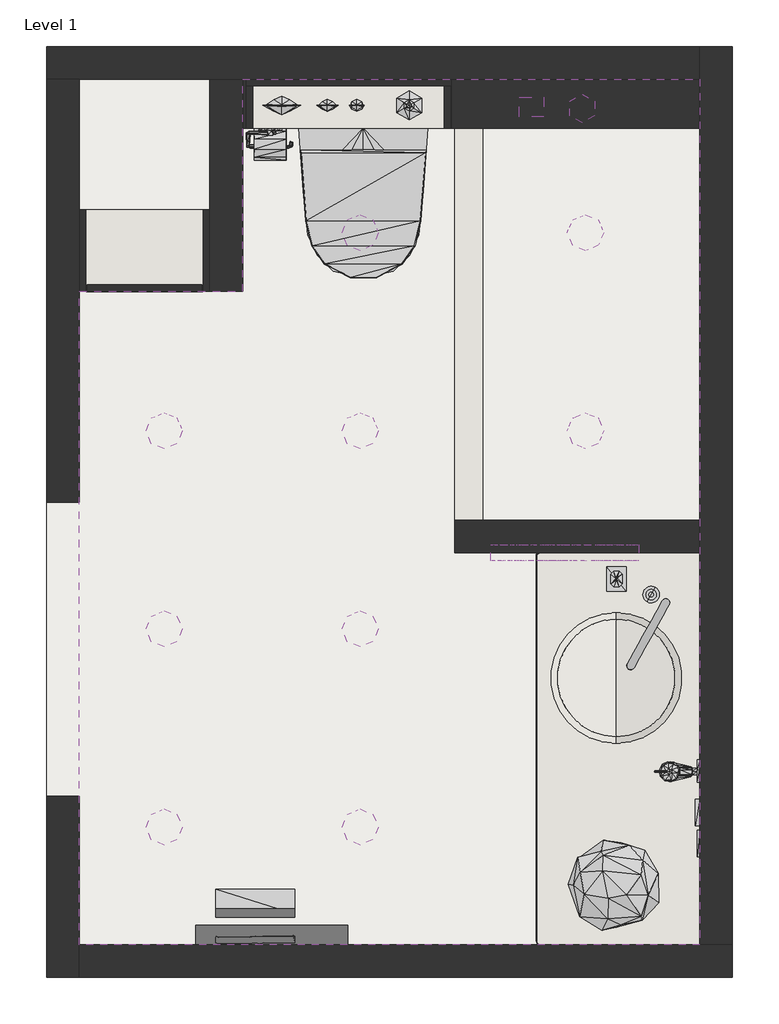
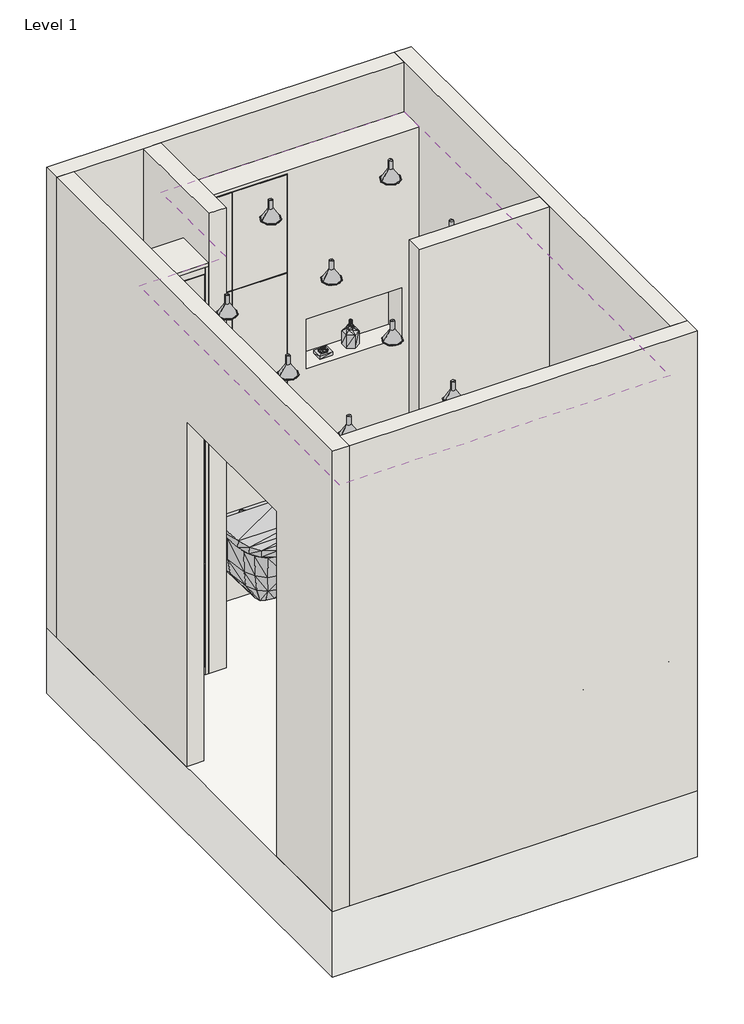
# One storey, incomplete: 17 geographic elements, 9 light fixtures, 7 walls, 1 covering, 1 flow terminal, 1 proxy, 1 slab.
"""IFC4 building model written with IfcOpenShell, lengths in millimetres."""

from ifc_helpers import new_model, si_unit, point, frame, frame_2d, origin, origin_with_axes, place, context, project, spatial, polyline, circle_curve, trimmed, segment, composite_curve, outline, extrude, faceted_brep, transform, mapped, element, save
from components import generic_models_c4c21ff8, tap_2_tap_2_4da6b067, enscape_assetdefinition_bath_towel_enscape_assetdefinition_b76da393, enscape_assetdefinition_creme_tube_02_enscape_099a7565, enscape_assetdefinition_creme_tube_03_enscape_79aa0b1a, enscape_assetdefinition_creme_tube_enscape_assetdefinition_85d8d02e, enscape_assetdefinition_folded_towel_enscape_assetdefinition_80e501e3, enscape_assetdefinition_hanging_toilet_1_enscape_ed570b02, enscape_assetdefinition_heater_06_enscape_assetdefinition_1c5556bd, enscape_assetdefinition_interior_plant_84_enscape_4a8b0236, enscape_assetdefinition_light_switch_02_enscape_37d4c2cf, enscape_assetdefinition_power_socket_enscape_assetdefinition_57b8c8f3, enscape_assetdefinition_soap_dispenser_05_enscape_c9e8c837, enscape_assetdefinition_soap_dispenser_enscape_4bf6a539, enscape_assetdefinition_soap_tray_enscape_assetdefinition_739b70c8, enscape_assetdefinition_toilet_paper_enscape_assetdefinition_5974bb4b, enscape_assetdefinition_towel_basket_enscape_assetdefinition_32777967, light_fixture_bf0697d5, walls_1_walls_1_4596b75a

model = new_model("IFC4")

# Units and contexts
model_context = context("Model", 3, world=origin())
ifc_project = project(units=[si_unit("LENGTHUNIT", "METRE", prefix="MILLI")], contexts=[model_context])

# Site, building, storey
site = spatial("IfcSite", under=ifc_project)
building = spatial("IfcBuilding", under=site)
storey = spatial("IfcBuildingStorey", under=building, Name="Level 1", Elevation=0.0)

# Proxy
placement = place(None, origin())
generic_models_shape = generic_models_c4c21ff8(model_context)
element("IfcBuildingElementProxy", 1, Name="ArcPro Statue : ArcPro Statue", ObjectType="ArcPro Statue : ArcPro Statue", at=placement, inside=storey, context=model_context, shape_type="MappedRepresentation", body=[
    mapped(generic_models_shape, transform((-867.6715386, 410.0517789, 1517.8195842), x_axis=(1.0, 0.0, 0.0), y_axis=(0.0, 1.0, 0.0), z_axis=(0.0, 0.0, 1.0))),
])

# Covering
element("IfcCovering", 2, ObjectType="600 x 1200mm Grid", at=placement, inside=storey, context=model_context, shape_type="SweptSolid", body=[
    extrude(outline(polyline([(-2287.6715386, -789.9482211), (-2287.6715386, 1210.0517789), (-1787.6715386, 1210.0517789), (-1787.6715386, 1860.0517789), (-387.6715386, 1860.0517789), (-387.6715386, -789.9482211), (-2287.6715386, -789.9482211)]), holes=[composite_curve([segment(trimmed(circle_curve(frame_2d((-1427.6715386, -429.9482211)), 55.3683433), [point((-1483.0398818, -429.9482211))], [point((-1372.3031953, -429.9482211))], True, "CARTESIAN"), True, "CONTINUOUS"), segment(trimmed(circle_curve(frame_2d((-1427.6715386, -429.9482211)), 55.3683433), [point((-1372.3031953, -429.9482211))], [point((-1483.0398818, -429.9482211))], True, "CARTESIAN"), True, "CONTINUOUS")], self_intersect=False), composite_curve([segment(trimmed(circle_curve(frame_2d((-1427.6715386, 176.7184455)), 55.3683433), [point((-1483.0398818, 176.7184455))], [point((-1372.3031953, 176.7184455))], True, "CARTESIAN"), True, "CONTINUOUS"), segment(trimmed(circle_curve(frame_2d((-1427.6715386, 176.7184455)), 55.3683433), [point((-1372.3031953, 176.7184455))], [point((-1483.0398818, 176.7184455))], True, "CARTESIAN"), True, "CONTINUOUS")], self_intersect=False), composite_curve([segment(trimmed(circle_curve(frame_2d((-1427.6715386, 783.3851122)), 55.3683433), [point((-1483.0398818, 783.3851122))], [point((-1372.3031953, 783.3851122))], True, "CARTESIAN"), True, "CONTINUOUS"), segment(trimmed(circle_curve(frame_2d((-1427.6715386, 783.3851122)), 55.3683433), [point((-1372.3031953, 783.3851122))], [point((-1483.0398818, 783.3851122))], True, "CARTESIAN"), True, "CONTINUOUS")], self_intersect=False), composite_curve([segment(trimmed(circle_curve(frame_2d((-1427.6715386, 1390.0517789)), 55.3683433), [point((-1483.0398818, 1390.0517789))], [point((-1372.3031953, 1390.0517789))], True, "CARTESIAN"), True, "CONTINUOUS"), segment(trimmed(circle_curve(frame_2d((-1427.6715386, 1390.0517789)), 55.3683433), [point((-1372.3031953, 1390.0517789))], [point((-1483.0398818, 1390.0517789))], True, "CARTESIAN"), True, "CONTINUOUS")], self_intersect=False), composite_curve([segment(trimmed(circle_curve(frame_2d((-2027.6715386, -429.9482211)), 55.3683433), [point((-2083.0398818, -429.9482211))], [point((-1972.3031953, -429.9482211))], True, "CARTESIAN"), True, "CONTINUOUS"), segment(trimmed(circle_curve(frame_2d((-2027.6715386, -429.9482211)), 55.3683433), [point((-1972.3031953, -429.9482211))], [point((-2083.0398818, -429.9482211))], True, "CARTESIAN"), True, "CONTINUOUS")], self_intersect=False), composite_curve([segment(trimmed(circle_curve(frame_2d((-2027.6715386, 176.7184455)), 55.3683433), [point((-2083.0398818, 176.7184455))], [point((-1972.3031953, 176.7184455))], True, "CARTESIAN"), True, "CONTINUOUS"), segment(trimmed(circle_curve(frame_2d((-2027.6715386, 176.7184455)), 55.3683433), [point((-1972.3031953, 176.7184455))], [point((-2083.0398818, 176.7184455))], True, "CARTESIAN"), True, "CONTINUOUS")], self_intersect=False), composite_curve([segment(trimmed(circle_curve(frame_2d((-2027.6715386, 783.3851122)), 55.3683433), [point((-2083.0398818, 783.3851122))], [point((-1972.3031953, 783.3851122))], True, "CARTESIAN"), True, "CONTINUOUS"), segment(trimmed(circle_curve(frame_2d((-2027.6715386, 783.3851122)), 55.3683433), [point((-1972.3031953, 783.3851122))], [point((-2083.0398818, 783.3851122))], True, "CARTESIAN"), True, "CONTINUOUS")], self_intersect=False), composite_curve([segment(trimmed(circle_curve(frame_2d((-737.6715386, 783.3851122)), 55.3683433), [point((-793.0398818, 783.3851122))], [point((-682.3031953, 783.3851122))], True, "CARTESIAN"), True, "CONTINUOUS"), segment(trimmed(circle_curve(frame_2d((-737.6715386, 783.3851122)), 55.3683433), [point((-682.3031953, 783.3851122))], [point((-793.0398818, 783.3851122))], True, "CARTESIAN"), True, "CONTINUOUS")], self_intersect=False), composite_curve([segment(trimmed(circle_curve(frame_2d((-737.6715386, 1390.0517789)), 55.3683433), [point((-793.0398818, 1390.0517789))], [point((-682.3031953, 1390.0517789))], True, "CARTESIAN"), True, "CONTINUOUS"), segment(trimmed(circle_curve(frame_2d((-737.6715386, 1390.0517789)), 55.3683433), [point((-682.3031953, 1390.0517789))], [point((-793.0398818, 1390.0517789))], True, "CARTESIAN"), True, "CONTINUOUS")], self_intersect=False)]), frame((0.0, 0.0, 2500.0), z_axis=(0.0, 0.0, 1.0), x_axis=(1.0, 0.0, 0.0)), (0.0, 0.0, 1.0), 52.0),
])

# Flow terminal
tap_2_tap_2_shape = tap_2_tap_2_4da6b067(model_context)
element("IfcFlowTerminal", 3, ObjectType="Tap (2) : Tap (2)", at=placement, inside=storey, context=model_context, shape_type="MappedRepresentation", body=[
    mapped(tap_2_tap_2_shape, transform((-491.6786571, 257.5598191, 800.0), x_axis=(0.8746197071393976, -0.4848096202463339, 0.0), y_axis=(0.4848096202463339, 0.8746197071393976, 0.0), z_axis=(0.0, 0.0, 1.0))),
])

# Geographic elements
enscape_assetdefinition_bath_towel_enscape_assetdefinition_shape = enscape_assetdefinition_bath_towel_enscape_assetdefinition_b76da393(model_context)
element("IfcGeographicElement", 4, ObjectType="Enscape AssetDefinition - Bath Towel : Enscape AssetDefinition - Bath Towel", at=placement, inside=storey, context=model_context, shape_type="MappedRepresentation", body=[
    mapped(enscape_assetdefinition_bath_towel_enscape_assetdefinition_shape, transform((-1647.6715386, -738.7482211, 1264.9), x_axis=(1.0, 0.0, 0.0), y_axis=(0.0, 1.0, 0.0), z_axis=(0.0, 0.0, 1.0))),
])
enscape_assetdefinition_creme_tube_02_enscape_shape = enscape_assetdefinition_creme_tube_02_enscape_099a7565(model_context)
element("IfcGeographicElement", 5, ObjectType="Enscape AssetDefinition - Creme Tube 02 : Enscape AssetDefinition - Creme Tube 02", at=placement, inside=storey, context=model_context, shape_type="MappedRepresentation", body=[
    mapped(enscape_assetdefinition_creme_tube_02_enscape_shape, transform((-1527.6715386, 1780.0517789, 974.3381512), x_axis=(1.0, 0.0, 0.0), y_axis=(0.0, 1.0, 0.0), z_axis=(0.0, 0.0, 1.0))),
])
enscape_assetdefinition_creme_tube_03_enscape_shape = enscape_assetdefinition_creme_tube_03_enscape_79aa0b1a(model_context)
element("IfcGeographicElement", 6, ObjectType="Enscape AssetDefinition - Creme Tube 03 : Enscape AssetDefinition - Creme Tube 03", at=placement, inside=storey, context=model_context, shape_type="MappedRepresentation", body=[
    mapped(enscape_assetdefinition_creme_tube_03_enscape_shape, transform((-1667.6715386, 1780.0517789, 974.3), x_axis=(1.0, 0.0, 0.0), y_axis=(0.0, 1.0, 0.0), z_axis=(0.0, 0.0, 1.0))),
])
enscape_assetdefinition_creme_tube_enscape_assetdefinition_shape = enscape_assetdefinition_creme_tube_enscape_assetdefinition_85d8d02e(model_context)
element("IfcGeographicElement", 7, ObjectType="Enscape AssetDefinition - Creme Tube : Enscape AssetDefinition - Creme Tube", at=placement, inside=storey, context=model_context, shape_type="MappedRepresentation", body=[
    mapped(enscape_assetdefinition_creme_tube_enscape_assetdefinition_shape, transform((-1437.6715386, 1780.0517789, 974.3), x_axis=(1.0, 0.0, 0.0), y_axis=(0.0, 1.0, 0.0), z_axis=(0.0, 0.0, 1.0))),
])
enscape_assetdefinition_folded_towel_enscape_assetdefinition_shape = enscape_assetdefinition_folded_towel_enscape_assetdefinition_80e501e3(model_context)
element("IfcGeographicElement", 8, ObjectType="Enscape AssetDefinition - Folded Towel : Enscape AssetDefinition - Folded Towel", at=placement, inside=storey, context=model_context, shape_type="MappedRepresentation", body=[
    mapped(enscape_assetdefinition_folded_towel_enscape_assetdefinition_shape, transform((-707.6715386, -469.9482211, 538.0), x_axis=(1.0, 0.0, 0.0), y_axis=(0.0, 1.0, 0.0), z_axis=(0.0, 0.0, 1.0))),
])
enscape_assetdefinition_hanging_toilet_1_enscape_shape = enscape_assetdefinition_hanging_toilet_1_enscape_ed570b02(model_context)
element("IfcGeographicElement", 9, ObjectType="Enscape AssetDefinition - Hanging Toilet 1 : Enscape AssetDefinition - Hanging Toilet 1", at=placement, inside=storey, context=model_context, shape_type="MappedRepresentation", body=[
    mapped(enscape_assetdefinition_hanging_toilet_1_enscape_shape, transform((-1417.6715386, 1710.0517789, 200.0), x_axis=(1.0, 0.0, 0.0), y_axis=(0.0, 1.0, 0.0), z_axis=(0.0, 0.0, 1.0))),
])
enscape_assetdefinition_heater_06_enscape_assetdefinition_shape = enscape_assetdefinition_heater_06_enscape_assetdefinition_1c5556bd(model_context)
element("IfcGeographicElement", 10, ObjectType="Enscape AssetDefinition - Heater 06 : Enscape AssetDefinition - Heater 06", at=placement, inside=storey, context=model_context, shape_type="MappedRepresentation", body=[
    mapped(enscape_assetdefinition_heater_06_enscape_assetdefinition_shape, transform((-1712.6715386, -789.9482211, 800.0), x_axis=(-1.0, 0.0, 0.0), y_axis=(0.0, -1.0, 0.0), z_axis=(0.0, 0.0, 1.0))),
])
enscape_assetdefinition_interior_plant_84_enscape_shape = enscape_assetdefinition_interior_plant_84_enscape_4a8b0236(model_context)
element("IfcGeographicElement", 11, ObjectType="Enscape AssetDefinition - Interior Plant 84 : Enscape AssetDefinition - Interior Plant 84", at=placement, inside=storey, context=model_context, shape_type="MappedRepresentation", body=[
    mapped(enscape_assetdefinition_interior_plant_84_enscape_shape, transform((-647.6715386, -609.9482211, 800.0), x_axis=(1.0, 0.0, 0.0), y_axis=(0.0, 1.0, 0.0), z_axis=(0.0, 0.0, 1.0))),
])
enscape_assetdefinition_light_switch_02_enscape_shape = enscape_assetdefinition_light_switch_02_enscape_37d4c2cf(model_context)
element("IfcGeographicElement", 12, ObjectType="Enscape AssetDefinition - Light Switch 02 : Enscape AssetDefinition - Light Switch 02", at=placement, inside=storey, context=model_context, shape_type="MappedRepresentation", body=[
    mapped(enscape_assetdefinition_light_switch_02_enscape_shape, transform((-387.6715386, -384.9482211, 900.0), x_axis=(0.0, -1.0, 0.0), y_axis=(1.0, 0.0, 0.0), z_axis=(0.0, 0.0, 1.0))),
])
enscape_assetdefinition_power_socket_enscape_assetdefinition_shape = enscape_assetdefinition_power_socket_enscape_assetdefinition_57b8c8f3(model_context)
element("IfcGeographicElement", 13, ObjectType="Enscape AssetDefinition - Power Socket : Enscape AssetDefinition - Power Socket", at=placement, inside=storey, context=model_context, shape_type="MappedRepresentation", body=[
    mapped(enscape_assetdefinition_power_socket_enscape_assetdefinition_shape, transform((-387.6715386, -479.9482211, 900.0), x_axis=(0.0, -1.0, 0.0), y_axis=(1.0, 0.0, 0.0), z_axis=(0.0, 0.0, 1.0))),
])
enscape_assetdefinition_soap_dispenser_05_enscape_shape = enscape_assetdefinition_soap_dispenser_05_enscape_c9e8c837(model_context)
element("IfcGeographicElement", 14, ObjectType="Enscape AssetDefinition - Soap Dispenser 05 : Enscape AssetDefinition - Soap Dispenser 05", at=placement, inside=storey, context=model_context, shape_type="MappedRepresentation", body=[
    mapped(enscape_assetdefinition_soap_dispenser_05_enscape_shape, transform((-387.6715386, -259.9482211, 900.0), x_axis=(0.0, -1.0, 0.0), y_axis=(1.0, 0.0, 0.0), z_axis=(0.0, 0.0, 1.0))),
])
enscape_assetdefinition_soap_dispenser_enscape_shape = enscape_assetdefinition_soap_dispenser_enscape_4bf6a539(model_context)
element("IfcGeographicElement", 15, ObjectType="Enscape AssetDefinition - Soap Dispenser : Enscape AssetDefinition - Soap Dispenser", at=placement, inside=storey, context=model_context, shape_type="MappedRepresentation", body=[
    mapped(enscape_assetdefinition_soap_dispenser_enscape_shape, transform((-747.6715386, 1770.0517789, 1254.3), x_axis=(1.0, 0.0, 0.0), y_axis=(0.0, 1.0, 0.0), z_axis=(0.0, 0.0, 1.0))),
])
element("IfcGeographicElement", 16, ObjectType="Enscape AssetDefinition - Soap Dispenser : Enscape AssetDefinition - Soap Dispenser", at=placement, inside=storey, context=model_context, shape_type="MappedRepresentation", body=[
    mapped(enscape_assetdefinition_soap_dispenser_enscape_shape, transform((-1277.4715386, 1780.0517789, 974.3), x_axis=(1.0, 0.0, 0.0), y_axis=(0.0, 1.0, 0.0), z_axis=(0.0, 0.0, 1.0))),
])
enscape_assetdefinition_soap_tray_enscape_assetdefinition_shape = enscape_assetdefinition_soap_tray_enscape_assetdefinition_739b70c8(model_context)
element("IfcGeographicElement", 17, ObjectType="Enscape AssetDefinition - Soap Tray : Enscape AssetDefinition - Soap Tray", at=placement, inside=storey, context=model_context, shape_type="MappedRepresentation", body=[
    mapped(enscape_assetdefinition_soap_tray_enscape_assetdefinition_shape, transform((-902.6715386, 1775.0517789, 1254.3), x_axis=(1.0, 0.0, 0.0), y_axis=(0.0, 1.0, 0.0), z_axis=(0.0, 0.0, 1.0))),
])
element("IfcGeographicElement", 18, ObjectType="Enscape AssetDefinition - Soap Tray : Enscape AssetDefinition - Soap Tray", at=placement, inside=storey, context=model_context, shape_type="MappedRepresentation", body=[
    mapped(enscape_assetdefinition_soap_tray_enscape_assetdefinition_shape, transform((-642.6715386, 330.0517789, 800.0), x_axis=(0.0, 1.0, 0.0), y_axis=(-1.0, 0.0, 0.0), z_axis=(0.0, 0.0, 1.0))),
])
enscape_assetdefinition_toilet_paper_enscape_assetdefinition_shape = enscape_assetdefinition_toilet_paper_enscape_assetdefinition_5974bb4b(model_context)
element("IfcGeographicElement", 19, ObjectType="Enscape AssetDefinition - Toilet Paper : Enscape AssetDefinition - Toilet Paper", at=placement, inside=storey, context=model_context, shape_type="MappedRepresentation", body=[
    mapped(enscape_assetdefinition_toilet_paper_enscape_assetdefinition_shape, transform((-1702.6715213, 1710.0517789, 700.0), x_axis=(-1.0, 0.0, 0.0), y_axis=(0.0, -1.0, 0.0), z_axis=(0.0, 0.0, 1.0))),
])
enscape_assetdefinition_towel_basket_enscape_assetdefinition_shape = enscape_assetdefinition_towel_basket_enscape_assetdefinition_32777967(model_context)
element("IfcGeographicElement", 20, ObjectType="Enscape AssetDefinition - Towel Basket : Enscape AssetDefinition - Towel Basket", at=placement, inside=storey, context=model_context, shape_type="MappedRepresentation", body=[
    mapped(enscape_assetdefinition_towel_basket_enscape_assetdefinition_shape, transform((-647.6715386, 80.0517789, 0.0), x_axis=(1.0, 0.0, 0.0), y_axis=(0.0, 1.0, 0.0), z_axis=(0.0, 0.0, 1.0))),
])

# Light fixtures
light_fixture_shape = light_fixture_bf0697d5(model_context)
element("IfcLightFixture", 21, ObjectType="CS HALLA RAVO (vestavné) : CS HALLA RAVO (vestavné)", at=placement, inside=storey, context=model_context, shape_type="MappedRepresentation", body=[
    mapped(light_fixture_shape, transform((-1427.6715386, -429.9482211, 2500.0), x_axis=(1.0, 0.0, 0.0), y_axis=(0.0, -1.0, 0.0), z_axis=(0.0, 0.0, -1.0))),
])
element("IfcLightFixture", 22, ObjectType="CS HALLA RAVO (vestavné) : CS HALLA RAVO (vestavné)", at=placement, inside=storey, context=model_context, shape_type="MappedRepresentation", body=[
    mapped(light_fixture_shape, transform((-1427.6715386, 176.7184455, 2500.0), x_axis=(1.0, 0.0, 0.0), y_axis=(0.0, -1.0, 0.0), z_axis=(0.0, 0.0, -1.0))),
])
element("IfcLightFixture", 23, ObjectType="CS HALLA RAVO (vestavné) : CS HALLA RAVO (vestavné)", at=placement, inside=storey, context=model_context, shape_type="MappedRepresentation", body=[
    mapped(light_fixture_shape, transform((-1427.6715386, 783.3851122, 2500.0), x_axis=(1.0, 0.0, 0.0), y_axis=(0.0, -1.0, 0.0), z_axis=(0.0, 0.0, -1.0))),
])
element("IfcLightFixture", 24, ObjectType="CS HALLA RAVO (vestavné) : CS HALLA RAVO (vestavné)", at=placement, inside=storey, context=model_context, shape_type="MappedRepresentation", body=[
    mapped(light_fixture_shape, transform((-1427.6715386, 1390.0517789, 2500.0), x_axis=(1.0, 0.0, 0.0), y_axis=(0.0, -1.0, 0.0), z_axis=(0.0, 0.0, -1.0))),
])
element("IfcLightFixture", 25, ObjectType="CS HALLA RAVO (vestavné) : CS HALLA RAVO (vestavné)", at=placement, inside=storey, context=model_context, shape_type="MappedRepresentation", body=[
    mapped(light_fixture_shape, transform((-2027.6715386, -429.9482211, 2500.0), x_axis=(1.0, 0.0, 0.0), y_axis=(0.0, -1.0, 0.0), z_axis=(0.0, 0.0, -1.0))),
])
element("IfcLightFixture", 26, ObjectType="CS HALLA RAVO (vestavné) : CS HALLA RAVO (vestavné)", at=placement, inside=storey, context=model_context, shape_type="MappedRepresentation", body=[
    mapped(light_fixture_shape, transform((-2027.6715386, 176.7184455, 2500.0), x_axis=(1.0, 0.0, 0.0), y_axis=(0.0, -1.0, 0.0), z_axis=(0.0, 0.0, -1.0))),
])
element("IfcLightFixture", 27, ObjectType="CS HALLA RAVO (vestavné) : CS HALLA RAVO (vestavné)", at=placement, inside=storey, context=model_context, shape_type="MappedRepresentation", body=[
    mapped(light_fixture_shape, transform((-2027.6715386, 783.3851122, 2500.0), x_axis=(1.0, 0.0, 0.0), y_axis=(0.0, -1.0, 0.0), z_axis=(0.0, 0.0, -1.0))),
])
element("IfcLightFixture", 28, ObjectType="CS HALLA RAVO (vestavné) : CS HALLA RAVO (vestavné)", at=placement, inside=storey, context=model_context, shape_type="MappedRepresentation", body=[
    mapped(light_fixture_shape, transform((-737.6715386, 783.3851122, 2500.0), x_axis=(1.0, 0.0, 0.0), y_axis=(0.0, -1.0, 0.0), z_axis=(0.0, 0.0, -1.0))),
])
element("IfcLightFixture", 29, ObjectType="CS HALLA RAVO (vestavné) : CS HALLA RAVO (vestavné)", at=placement, inside=storey, context=model_context, shape_type="MappedRepresentation", body=[
    mapped(light_fixture_shape, transform((-737.6715386, 1390.0517789, 2500.0), x_axis=(1.0, 0.0, 0.0), y_axis=(0.0, -1.0, 0.0), z_axis=(0.0, 0.0, -1.0))),
])

# Slab
element("IfcSlab", 30, ObjectType="Generic 400mm", at=placement, inside=storey, context=model_context, shape_type="SweptSolid", body=[
    extrude(outline(polyline([(-2387.6715386, 1960.0517789), (-287.6715386, 1960.0517789), (-287.6715386, -889.9482211), (-2387.6715386, -889.9482211), (-2387.6715386, 1960.0517789)])), frame((0.0, 0.0, -400.0), z_axis=(0.0, 0.0, 1.0), x_axis=(1.0, 0.0, 0.0)), (0.0, 0.0, 1.0), 400.0),
])

# Walls
element("IfcWall", 31, ObjectType="Generic - 100mm", at=placement, inside=storey, context=model_context, shape_type="Brep", body=[
    faceted_brep([(-2387.6715386, 1860.0517789, 0.0), (-2287.6715386, 1860.0517789, 0.0), (-1887.6715386, 1860.0517789, 0.0), (-1787.6715386, 1860.0517789, 0.0), (-387.6715386, 1860.0517789, 0.0), (-387.6715386, 1860.0517789, 2800.0), (-1787.6715386, 1860.0517789, 2800.0), (-1887.6715386, 1860.0517789, 2800.0), (-2287.6715386, 1860.0517789, 2800.0), (-2387.6715386, 1860.0517789, 2800.0), (-2387.6715386, 1960.0517789, 0.0), (-2387.6715386, 1960.0517789, 2800.0), (-387.6715386, 1960.0517789, 2800.0), (-387.6715386, 1960.0517789, 0.0)], [[[0, 1, 2, 3, 4, 5, 6, 7, 8, 9]], [[10, 11, 12, 13]], [[4, 3, 2, 1, 0, 10, 13]], [[0, 9, 11, 10]], [[5, 4, 13, 12]], [[9, 8, 7, 6, 5, 12, 11]]]),
])
element("IfcWall", 32, ObjectType="Generic - 100mm", at=placement, inside=storey, context=model_context, shape_type="Brep", body=[
    faceted_brep([(-2287.6715386, -889.9482211, 2800.0), (-2287.6715386, -889.9482211, 0.0), (-2287.6715386, -789.9482211, 0.0), (-2287.6715386, -335.5482211, 0.0), (-2287.6715386, -335.5482211, 2100.0), (-2287.6715386, 564.4517789, 2100.0), (-2287.6715386, 564.4517789, 0.0), (-2287.6715386, 1210.0517789, 0.0), (-2287.6715386, 1460.0517789, 0.0), (-2287.6715386, 1860.0517789, 0.0), (-2287.6715386, 1860.0517789, 2800.0), (-2287.6715386, -789.9482211, 2800.0), (-2387.6715386, -889.9482211, 0.0), (-2387.6715386, -889.9482211, 2800.0), (-2387.6715386, 1860.0517789, 2800.0), (-2387.6715386, 1860.0517789, 0.0), (-2387.6715386, 564.4517789, 0.0), (-2387.6715386, 564.4517789, 2100.0), (-2387.6715386, -335.5482211, 2100.0), (-2387.6715386, -335.5482211, 0.0)], [[[0, 1, 2, 3, 4, 5, 6, 7, 8, 9, 10, 11]], [[12, 13, 14, 15, 16, 17, 18, 19]], [[1, 12, 19, 3, 2]], [[15, 9, 8, 7, 6, 16]], [[1, 0, 13, 12]], [[10, 9, 15, 14]], [[0, 11, 10, 14, 13]], [[5, 17, 16, 6]], [[17, 5, 4, 18]], [[18, 4, 3, 19]]]),
])
element("IfcWall", 33, ObjectType="Generic - 100mm", at=placement, inside=storey, context=model_context, shape_type="Brep", body=[
    faceted_brep([(-287.6715386, -789.9482211, 0.0), (-387.6715386, -789.9482211, 0.0), (-2287.6715386, -789.9482211, 0.0), (-2287.6715386, -789.9482211, 2800.0), (-387.6715386, -789.9482211, 2800.0), (-287.6715386, -789.9482211, 2800.0), (-287.6715386, -889.9482211, 0.0), (-287.6715386, -889.9482211, 2800.0), (-2287.6715386, -889.9482211, 2800.0), (-2287.6715386, -889.9482211, 0.0)], [[[0, 1, 2, 3, 4, 5]], [[6, 7, 8, 9]], [[2, 1, 0, 6, 9]], [[0, 5, 7, 6]], [[3, 2, 9, 8]], [[5, 4, 3, 8, 7]]]),
])
element("IfcWall", 34, ObjectType="Generic - 100mm", at=placement, inside=storey, context=model_context, shape_type="Brep", body=[
    faceted_brep([(-387.6715386, 1960.0517789, 0.0), (-387.6715386, 1860.0517789, 0.0), (-387.6715386, 510.0517789, 0.0), (-387.6715386, 410.0517789, 0.0), (-387.6715386, -789.9482211, 0.0), (-387.6715386, -789.9482211, 2800.0), (-387.6715386, 410.0517789, 2800.0), (-387.6715386, 510.0517789, 2800.0), (-387.6715386, 1860.0517789, 2800.0), (-387.6715386, 1960.0517789, 2800.0), (-287.6715386, 1960.0517789, 0.0), (-287.6715386, 1960.0517789, 2800.0), (-287.6715386, -789.9482211, 2800.0), (-287.6715386, -789.9482211, 0.0)], [[[0, 1, 2, 3, 4, 5, 6, 7, 8, 9]], [[10, 11, 12, 13]], [[4, 3, 2, 1, 0, 10, 13]], [[0, 9, 11, 10]], [[5, 4, 13, 12]], [[9, 8, 7, 6, 5, 12, 11]]]),
])
element("IfcWall", 35, ObjectType="Generic - 100mm", at=placement, inside=storey, context=model_context, shape_type="SweptSolid", body=[
    extrude(outline(polyline([(-1137.6715386, 510.0517789), (-387.6715386, 510.0517789), (-387.6715386, 410.0517789), (-1137.6715386, 410.0517789), (-1137.6715386, 510.0517789)])), origin_with_axes(), (0.0, 0.0, 1.0), 2800.0),
])
element("IfcWall", 36, ObjectType="Generic - 100mm", at=placement, inside=storey, context=model_context, shape_type="Brep", body=[
    faceted_brep([(-1887.6715386, 1860.0517789, 0.0), (-1887.6715386, 1460.0517789, 0.0), (-1887.6715386, 1210.0517789, 0.0), (-1887.6715386, 1210.0517789, 2479.2928932), (-1887.6715386, 1210.0517789, 2480.0), (-1887.6715386, 1210.0517789, 2500.0), (-1887.6715386, 1210.0517789, 2800.0), (-1887.6715386, 1860.0517789, 2800.0), (-1787.6715386, 1860.0517789, 0.0), (-1787.6715386, 1860.0517789, 2500.0), (-1787.6715386, 1860.0517789, 2800.0), (-1787.6715386, 1210.0517789, 2800.0), (-1787.6715386, 1210.0517789, 0.0), (-1787.6715386, 1710.0517789, 0.0)], [[[0, 1, 2, 3, 4, 5, 6, 7]], [[8, 9, 10, 11, 12, 13]], [[2, 1, 0, 8, 13, 12]], [[6, 5, 4, 3, 2, 12, 11]], [[0, 7, 10, 9, 8]], [[7, 6, 11, 10]]]),
])
walls_1_walls_1_shape = walls_1_walls_1_4596b75a(model_context)
element("IfcWall", 37, ObjectType="Walls 1 : Walls 1", at=placement, inside=storey, context=model_context, shape_type="MappedRepresentation", body=[
    mapped(walls_1_walls_1_shape, transform((0.0, 0.0, 0.0), x_axis=(1.0, 0.0, 0.0), y_axis=(0.0, 1.0, 0.0), z_axis=(0.0, 0.0, 1.0))),
])

save(model, "model.ifc")
